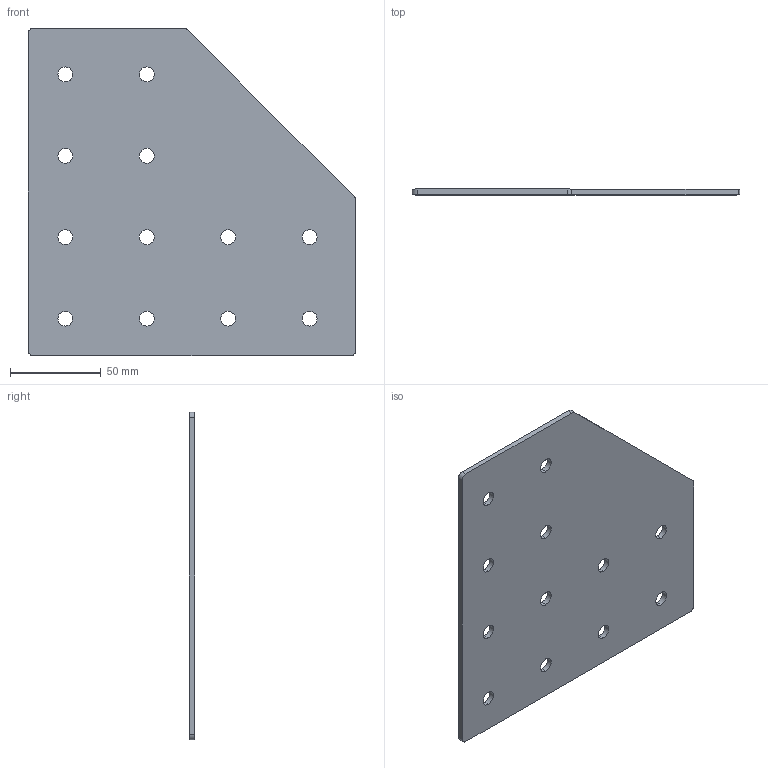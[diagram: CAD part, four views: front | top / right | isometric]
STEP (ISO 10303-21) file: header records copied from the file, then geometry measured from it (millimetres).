
FILE_DESCRIPTION (( 'STEP AP203' ), '1' );
FILE_NAME ('ã-12-ó-45.STEP', '2016-07-21T12:56:31', ( 'RosInstal-MKM' ), ( '' ), 'SwSTEP 2.0', 'SolidWorks 2014', '' );
FILE_SCHEMA (( 'CONFIG_CONTROL_DESIGN' ));
Length unit declared in the file: millimetre
Products named in the file (1): ã-12-ó-45
Bounding box: 181 x 3 x 181 mm (x, y, z)
Surface area: 58360.6 mm2 (no closed solid volume)
Topology: 0 solids, 1 shells, 36 faces, 102 edges, 68 vertices
Faces by surface type: cylinder 29, plane 7
Entity records: 1329 total; most frequent: DIRECTION 234, CARTESIAN_POINT 207, ORIENTED_EDGE 204, EDGE_CURVE 102, AXIS2_PLACEMENT_3D 95, VERTEX_POINT 68, EDGE_LOOP 60, CIRCLE 58
